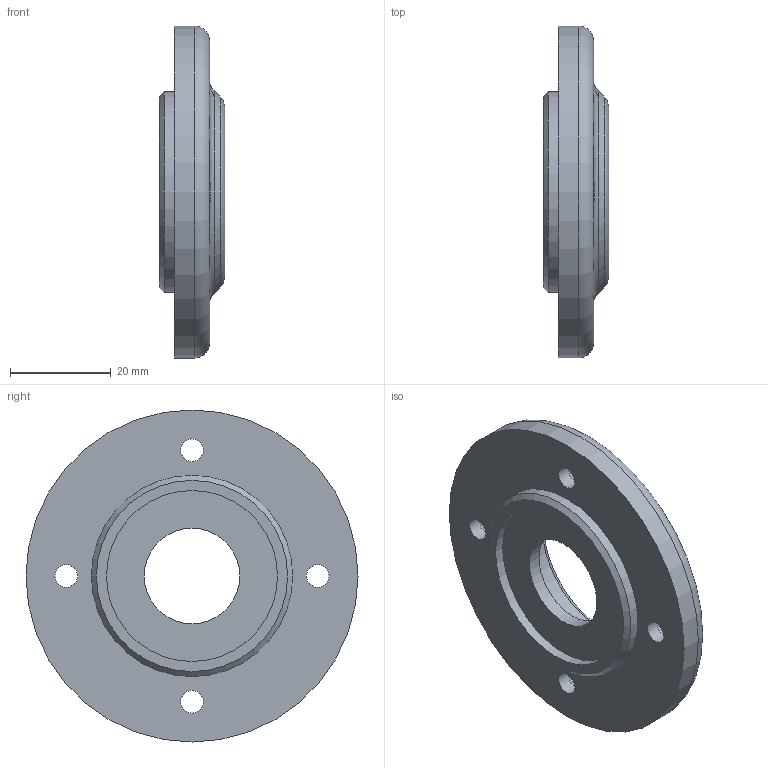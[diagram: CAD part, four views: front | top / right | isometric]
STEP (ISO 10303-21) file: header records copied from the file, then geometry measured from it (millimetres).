
FILE_DESCRIPTION(/* description */ (''),/* implementation_level */ '2;1');
FILE_NAME(/* name */ '',/* time_stamp */ '2025-05-09T16:54:04+09:00',/* author */ ('jhkim'),/* organization */ (''),/* preprocessor_version */ 'ST-DEVELOPER v20.1',/* originating_system */ 'Autodesk Inventor 2026',/* authorisation */ '');
FILE_SCHEMA (('AUTOMOTIVE_DESIGN { 1 0 10303 214 3 1 1 }'));
Length unit declared in the file: millimetre
Products named in the file (1): 앞커버
Bounding box: 13 x 66 x 66 mm (x, y, z)
Volume: 20534.2 mm3; surface area: 9506.4 mm2
Topology: 1 solids, 1 shells, 30 faces, 72 edges, 48 vertices
Faces by surface type: cylinder 13, plane 10, torus 4, cone 3
Full cylindrical faces by diameter (mm): 4.5 x4, 8 x4, 19 x1, 32 x1, 34 x1, 40 x1, 66 x1
Entity records: 1023 total; most frequent: CARTESIAN_POINT 214, DIRECTION 180, ORIENTED_EDGE 144, AXIS2_PLACEMENT_3D 82, EDGE_CURVE 72, CIRCLE 51, VERTEX_POINT 48, EDGE_LOOP 44
